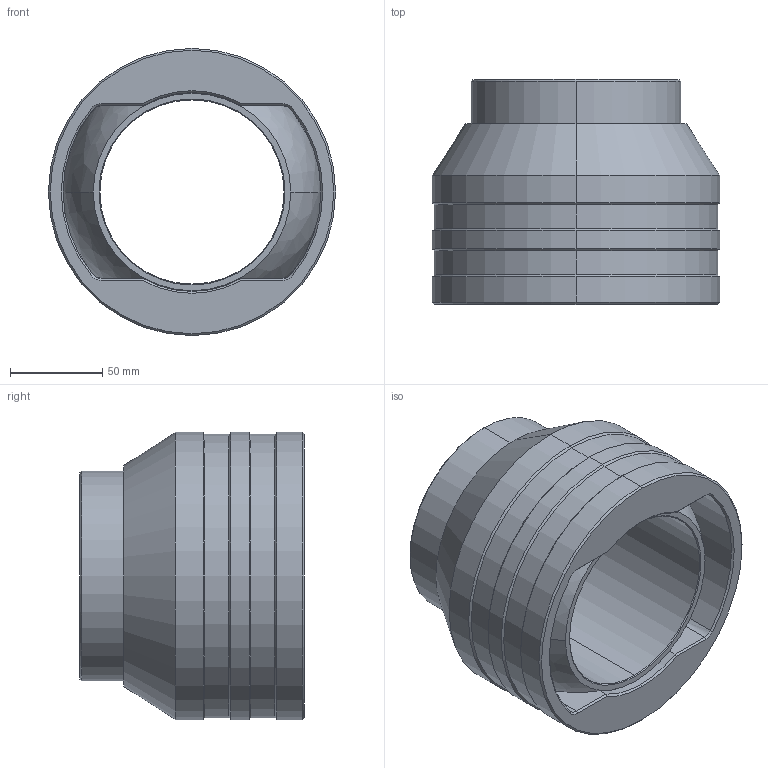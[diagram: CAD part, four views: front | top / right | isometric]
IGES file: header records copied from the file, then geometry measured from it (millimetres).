
Start section: 3D InterOp IGES (Version 20 0 1), Spatial Corp. Copyright (c) 1999-2007.
Global section: file name: 10.11.10.igs; native system: Spatial Corp.; preprocessor: 3D InterOp GENERIC/IGES 3.0; author: Noname; organization: Noname; date: 20111110.164128; units: metre
Bounding box: 156 x 122 x 156 mm (x, y, z)
Surface area: 186734.9 mm2 (no closed solid volume)
Topology: 0 solids, 0 shells, 75 faces, 1548 edges, 2760 vertices
Faces by surface type: revolution 62, extrusion 13
